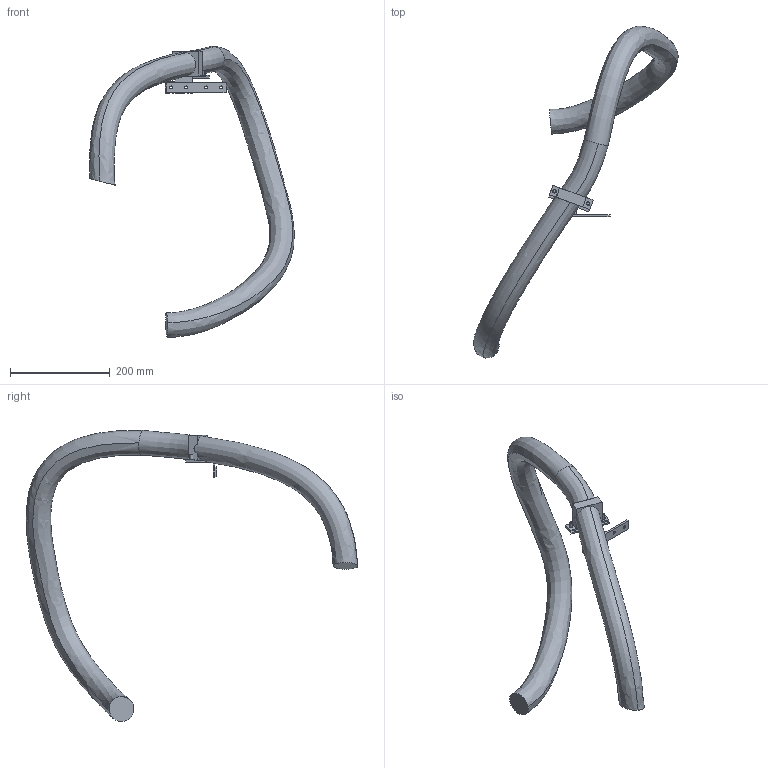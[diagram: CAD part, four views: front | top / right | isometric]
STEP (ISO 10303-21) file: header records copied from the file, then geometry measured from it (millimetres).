
FILE_DESCRIPTION (( 'STEP AP203' ), '1' );
FILE_NAME ('IRB6700-MH6_220-300_IRC5_rev00_LINK03a_CABLE.STEP', '2014-08-27T11:28:10', ( 'ABB' ), ( 'ABB' ), 'SwSTEP 2.0', 'SolidWorks 2012', '' );
FILE_SCHEMA (( 'CONFIG_CONTROL_DESIGN' ));
Length unit declared in the file: millimetre
Products named in the file (1): IRB6700-MH6_220-300_IRC5_rev00_LINK03a_CABLE
Bounding box: 410.9 x 666.97 x 584.92 mm (x, y, z)
Volume: 2906898.3 mm3; surface area: 247718.3 mm2
Topology: 1 solids, 1 shells, 72 faces, 189 edges, 124 vertices
Faces by surface type: plane 48, cylinder 18, bspline 6
Entity records: 24667 total; most frequent: CARTESIAN_POINT 22833, ORIENTED_EDGE 378, DIRECTION 335, EDGE_CURVE 189, LINE 125, VECTOR 125, VERTEX_POINT 124, AXIS2_PLACEMENT_3D 105
